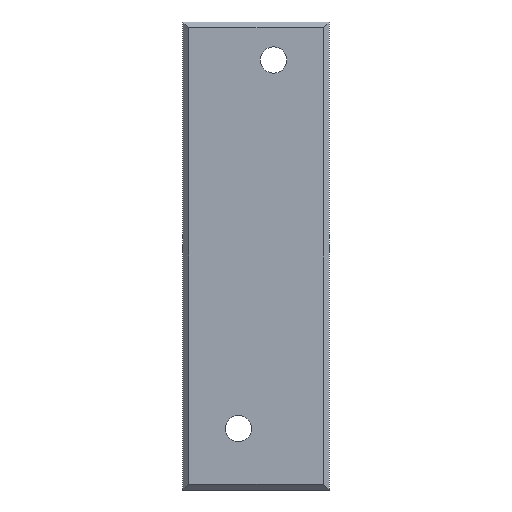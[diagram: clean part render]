
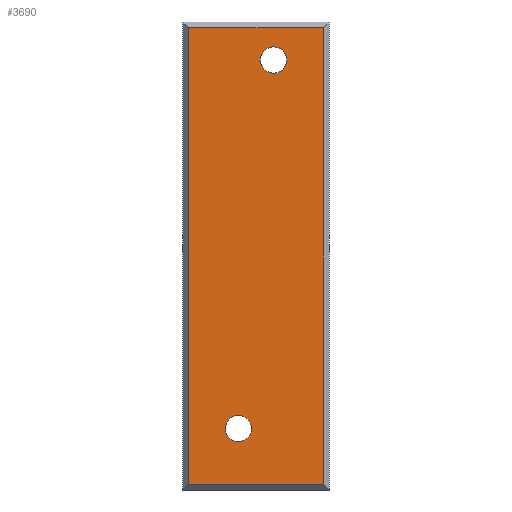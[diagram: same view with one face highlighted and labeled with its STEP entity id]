
A CAD part, left-side view. The second image highlights one B-rep face of the part: STEP entity #3690.
In plain terms, the highlighted planar face has unit normal (-1, 0, 0).
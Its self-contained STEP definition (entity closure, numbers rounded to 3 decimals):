
#194 = CARTESIAN_POINT ( 'NONE',  ( 0., 31., 21. ) ) ;
#198 = CARTESIAN_POINT ( 'NONE',  ( 0., 25., 2. ) ) ;
#223 = EDGE_LOOP ( 'NONE', ( #4003, #1878 ) ) ;
#338 = DIRECTION ( 'NONE',  ( 1., 0., 0. ) ) ;
#424 = CIRCLE ( 'NONE', #2079, 4.5 ) ;
#425 = CARTESIAN_POINT ( 'NONE',  ( 0., 26.5, 21. ) ) ;
#573 = DIRECTION ( 'NONE',  ( 0., 1., 0. ) ) ;
#611 = DIRECTION ( 'NONE',  ( 1., 0., 0. ) ) ;
#616 = CARTESIAN_POINT ( 'NONE',  ( 0., 2., 158. ) ) ;
#650 = DIRECTION ( 'NONE',  ( 0., 0., -1. ) ) ;
#707 = VERTEX_POINT ( 'NONE', #2838 ) ;
#715 = EDGE_CURVE ( 'NONE', #4351, #707, #4240, .T. ) ;
#730 = AXIS2_PLACEMENT_3D ( 'NONE', #1391, #3942, #1752 ) ;
#746 = CARTESIAN_POINT ( 'NONE',  ( 0., 48., 2. ) ) ;
#758 = DIRECTION ( 'NONE',  ( 0., 1., 0. ) ) ;
#925 = VERTEX_POINT ( 'NONE', #616 ) ;
#1022 = LINE ( 'NONE', #198, #3808 ) ;
#1078 = EDGE_CURVE ( 'NONE', #4710, #2817, #424, .T. ) ;
#1086 = CARTESIAN_POINT ( 'NONE',  ( 0., 14.5, 147. ) ) ;
#1370 = EDGE_CURVE ( 'NONE', #707, #4351, #3718, .T. ) ;
#1391 = CARTESIAN_POINT ( 'NONE',  ( 0., 19., 147. ) ) ;
#1422 = FACE_OUTER_BOUND ( 'NONE', #2590, .T. ) ;
#1648 = VERTEX_POINT ( 'NONE', #746 ) ;
#1701 = ORIENTED_EDGE ( 'NONE', *, *, #3507, .F. ) ;
#1744 = AXIS2_PLACEMENT_3D ( 'NONE', #2525, #338, #2893 ) ;
#1752 = DIRECTION ( 'NONE',  ( 0., 1., 0. ) ) ;
#1878 = ORIENTED_EDGE ( 'NONE', *, *, #4508, .T. ) ;
#1966 = CARTESIAN_POINT ( 'NONE',  ( 0., 48., 158. ) ) ;
#1997 = EDGE_CURVE ( 'NONE', #2328, #925, #4339, .T. ) ;
#2057 = VECTOR ( 'NONE', #650, 1000. ) ;
#2079 = AXIS2_PLACEMENT_3D ( 'NONE', #194, #2751, #573 ) ;
#2263 = AXIS2_PLACEMENT_3D ( 'NONE', #2789, #611, #3158 ) ;
#2328 = VERTEX_POINT ( 'NONE', #1966 ) ;
#2455 = CARTESIAN_POINT ( 'NONE',  ( 0., 2., 80. ) ) ;
#2525 = CARTESIAN_POINT ( 'NONE',  ( 0., 19., 147. ) ) ;
#2548 = PLANE ( 'NONE',  #3506 ) ;
#2590 = EDGE_LOOP ( 'NONE', ( #1701, #4071, #3562, #3768 ) ) ;
#2653 = CARTESIAN_POINT ( 'NONE',  ( 0., 48., 80. ) ) ;
#2677 = EDGE_CURVE ( 'NONE', #1648, #2328, #4365, .T. ) ;
#2751 = DIRECTION ( 'NONE',  ( 1., 0., 0. ) ) ;
#2758 = DIRECTION ( 'NONE',  ( 0., 1., 0. ) ) ;
#2789 = CARTESIAN_POINT ( 'NONE',  ( 0., 31., 21. ) ) ;
#2791 = DIRECTION ( 'NONE',  ( 0., -1., 0. ) ) ;
#2817 = VERTEX_POINT ( 'NONE', #425 ) ;
#2838 = CARTESIAN_POINT ( 'NONE',  ( 0., 23.5, 147. ) ) ;
#2893 = DIRECTION ( 'NONE',  ( 0., 1., 0. ) ) ;
#2925 = DIRECTION ( 'NONE',  ( 1., 0., 0. ) ) ;
#3023 = DIRECTION ( 'NONE',  ( 0., 0., 1. ) ) ;
#3158 = DIRECTION ( 'NONE',  ( 0., 1., 0. ) ) ;
#3273 = CIRCLE ( 'NONE', #2263, 4.5 ) ;
#3280 = CARTESIAN_POINT ( 'NONE',  ( 0., 0., 0. ) ) ;
#3356 = FACE_BOUND ( 'NONE', #4742, .T. ) ;
#3358 = CARTESIAN_POINT ( 'NONE',  ( 0., 35.5, 21. ) ) ;
#3364 = VECTOR ( 'NONE', #2791, 1000. ) ;
#3506 = AXIS2_PLACEMENT_3D ( 'NONE', #3280, #2925, #758 ) ;
#3507 = EDGE_CURVE ( 'NONE', #4033, #1648, #1022, .T. ) ;
#3562 = ORIENTED_EDGE ( 'NONE', *, *, #1997, .F. ) ;
#3608 = CARTESIAN_POINT ( 'NONE',  ( 0., 2., 2. ) ) ;
#3690 = ADVANCED_FACE ( 'NONE', ( #1422, #3356, #4328 ), #2548, .F. ) ;
#3718 = CIRCLE ( 'NONE', #1744, 4.5 ) ;
#3768 = ORIENTED_EDGE ( 'NONE', *, *, #2677, .F. ) ;
#3808 = VECTOR ( 'NONE', #2758, 1000. ) ;
#3876 = CARTESIAN_POINT ( 'NONE',  ( 0., 25., 158. ) ) ;
#3942 = DIRECTION ( 'NONE',  ( 1., 0., 0. ) ) ;
#3965 = ORIENTED_EDGE ( 'NONE', *, *, #715, .T. ) ;
#4003 = ORIENTED_EDGE ( 'NONE', *, *, #1078, .T. ) ;
#4033 = VERTEX_POINT ( 'NONE', #3608 ) ;
#4071 = ORIENTED_EDGE ( 'NONE', *, *, #4548, .F. ) ;
#4117 = LINE ( 'NONE', #2455, #2057 ) ;
#4235 = VECTOR ( 'NONE', #3023, 1000. ) ;
#4240 = CIRCLE ( 'NONE', #730, 4.5 ) ;
#4328 = FACE_BOUND ( 'NONE', #223, .T. ) ;
#4339 = LINE ( 'NONE', #3876, #3364 ) ;
#4351 = VERTEX_POINT ( 'NONE', #1086 ) ;
#4365 = LINE ( 'NONE', #2653, #4235 ) ;
#4508 = EDGE_CURVE ( 'NONE', #2817, #4710, #3273, .T. ) ;
#4548 = EDGE_CURVE ( 'NONE', #925, #4033, #4117, .T. ) ;
#4594 = ORIENTED_EDGE ( 'NONE', *, *, #1370, .T. ) ;
#4710 = VERTEX_POINT ( 'NONE', #3358 ) ;
#4742 = EDGE_LOOP ( 'NONE', ( #4594, #3965 ) ) ;
